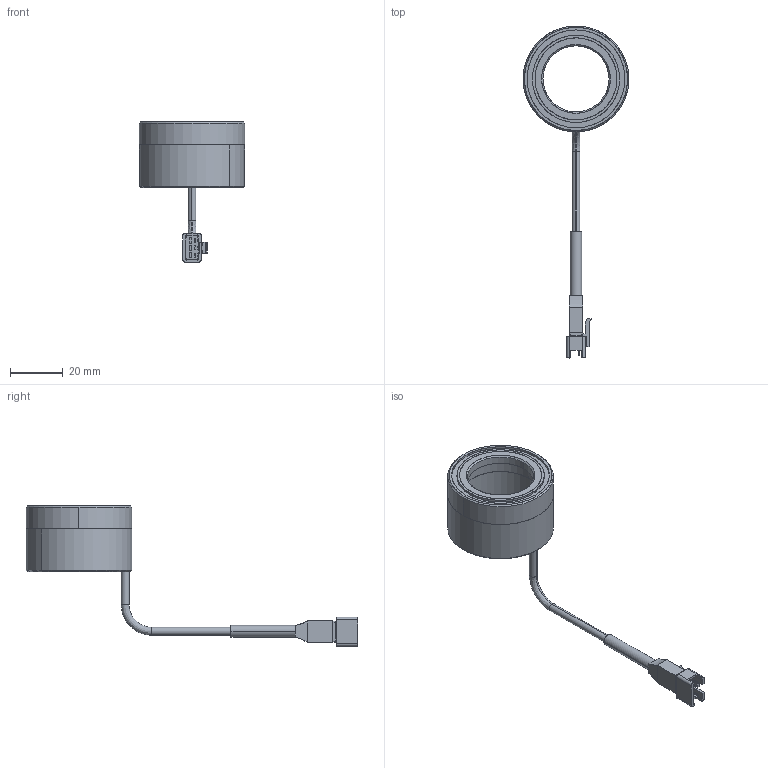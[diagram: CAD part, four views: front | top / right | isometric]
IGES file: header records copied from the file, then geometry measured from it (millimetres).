
Start section: SolidWorks IGES file using analytic representation for surfaces
Global section: file name: C:\Users\88691\Desktop\VAT-4030W-TCH110_Drawing_L1220A - A00100.IGS; native system: SolidWorks 2020; preprocessor: SolidWorks 2020; author: 88691; date: 240808.115531; units: millimetre
Bounding box: 40 x 125.5 x 53.2 mm (x, y, z)
Surface area: 15122.1 mm2 (no closed solid volume)
Topology: 0 solids, 0 shells, 369 faces, 6104 edges, 6104 vertices
Faces by surface type: revolution 195, bspline 174
